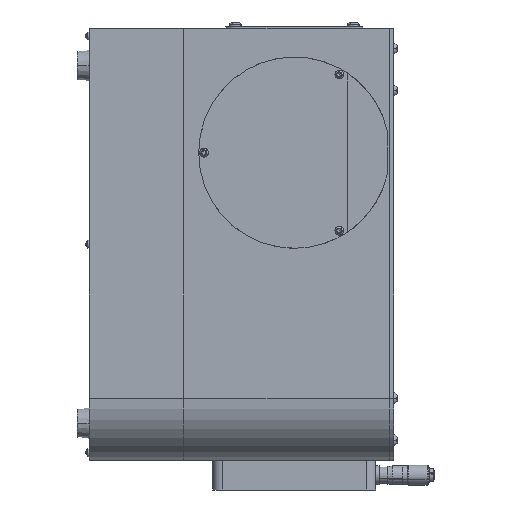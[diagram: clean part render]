
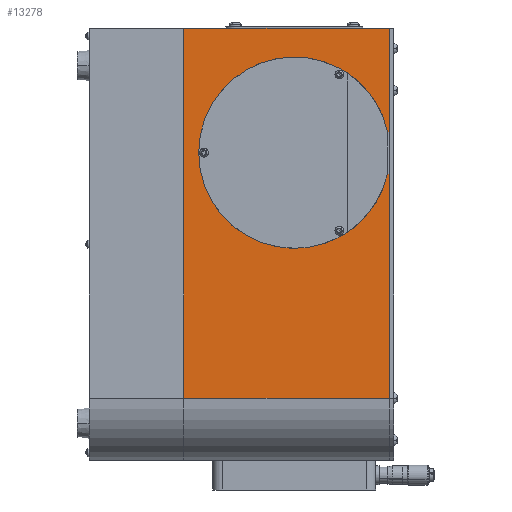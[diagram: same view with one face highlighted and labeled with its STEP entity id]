
A CAD part, left-side view. The second image highlights one B-rep face of the part: STEP entity #13278.
In plain terms, the highlighted planar face has unit normal (-1, 0, 0).
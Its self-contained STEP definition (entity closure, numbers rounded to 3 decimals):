
#216 = LINE ( 'NONE', #18851, #20442 ) ;
#286 = DIRECTION ( 'NONE',  ( 0., -1., 0. ) ) ;
#774 = DIRECTION ( 'NONE',  ( 0., -1., 0. ) ) ;
#827 = LINE ( 'NONE', #7123, #14848 ) ;
#995 = LINE ( 'NONE', #3783, #17003 ) ;
#1275 = ORIENTED_EDGE ( 'NONE', *, *, #3268, .F. ) ;
#1336 = ORIENTED_EDGE ( 'NONE', *, *, #15198, .T. ) ;
#2396 = CARTESIAN_POINT ( 'NONE',  ( -191.054, -157.513, 45.5 ) ) ;
#3268 = EDGE_CURVE ( 'NONE', #9895, #10801, #25383, .T. ) ;
#3727 = DIRECTION ( 'NONE',  ( 0., 0., 1. ) ) ;
#3764 = CARTESIAN_POINT ( 'NONE',  ( -191.054, -157.513, -99. ) ) ;
#3783 = CARTESIAN_POINT ( 'NONE',  ( -191.054, -157.513, 72.5 ) ) ;
#3837 = ORIENTED_EDGE ( 'NONE', *, *, #15326, .T. ) ;
#3856 = ORIENTED_EDGE ( 'NONE', *, *, #25794, .F. ) ;
#4238 = CARTESIAN_POINT ( 'NONE',  ( -191.054, -25.513, -99. ) ) ;
#4264 = VERTEX_POINT ( 'NONE', #2396 ) ;
#4361 = ORIENTED_EDGE ( 'NONE', *, *, #20903, .F. ) ;
#5051 = CIRCLE ( 'NONE', #10160, 61.5 ) ;
#5195 = CARTESIAN_POINT ( 'NONE',  ( -191.054, -96.513, 59. ) ) ;
#5585 = VERTEX_POINT ( 'NONE', #3764 ) ;
#5792 = CARTESIAN_POINT ( 'NONE',  ( -191.054, -25.513, 139. ) ) ;
#5842 = CARTESIAN_POINT ( 'NONE',  ( -191.054, -25.513, 139. ) ) ;
#6900 = ORIENTED_EDGE ( 'NONE', *, *, #26506, .F. ) ;
#7123 = CARTESIAN_POINT ( 'NONE',  ( -191.054, -157.513, 45.5 ) ) ;
#7998 = VERTEX_POINT ( 'NONE', #10989 ) ;
#8390 = CARTESIAN_POINT ( 'NONE',  ( -191.054, -157.513, 72.5 ) ) ;
#9895 = VERTEX_POINT ( 'NONE', #20277 ) ;
#10160 = AXIS2_PLACEMENT_3D ( 'NONE', #5195, #21997, #15513 ) ;
#10801 = VERTEX_POINT ( 'NONE', #8390 ) ;
#10975 = CARTESIAN_POINT ( 'NONE',  ( -191.054, -157.513, -99. ) ) ;
#10989 = CARTESIAN_POINT ( 'NONE',  ( -191.054, -156.513, 45.5 ) ) ;
#12027 = DIRECTION ( 'NONE',  ( 1., 0., 0. ) ) ;
#12124 = CARTESIAN_POINT ( 'NONE',  ( -191.054, -157.513, 139. ) ) ;
#12632 = VERTEX_POINT ( 'NONE', #26806 ) ;
#12880 = DIRECTION ( 'NONE',  ( 0., 0., -1. ) ) ;
#13107 = VECTOR ( 'NONE', #25529, 1000. ) ;
#13184 = EDGE_LOOP ( 'NONE', ( #4361, #6900, #1275, #3837, #1336, #15127, #3856, #18571 ) ) ;
#13278 = ADVANCED_FACE ( 'NONE', ( #16581 ), #16320, .F. ) ;
#13896 = LINE ( 'NONE', #5792, #23688 ) ;
#14419 = LINE ( 'NONE', #18955, #13107 ) ;
#14848 = VECTOR ( 'NONE', #286, 1000. ) ;
#15127 = ORIENTED_EDGE ( 'NONE', *, *, #23415, .T. ) ;
#15198 = EDGE_CURVE ( 'NONE', #25350, #20956, #13896, .T. ) ;
#15326 = EDGE_CURVE ( 'NONE', #9895, #25350, #216, .T. ) ;
#15513 = DIRECTION ( 'NONE',  ( 0., 0., -1. ) ) ;
#16320 = PLANE ( 'NONE',  #23010 ) ;
#16581 = FACE_OUTER_BOUND ( 'NONE', #13184, .T. ) ;
#17003 = VECTOR ( 'NONE', #20413, 1000. ) ;
#18571 = ORIENTED_EDGE ( 'NONE', *, *, #20949, .F. ) ;
#18851 = CARTESIAN_POINT ( 'NONE',  ( -191.054, -157.513, 139. ) ) ;
#18955 = CARTESIAN_POINT ( 'NONE',  ( -191.054, -157.513, 139. ) ) ;
#19319 = VECTOR ( 'NONE', #774, 1000. ) ;
#19809 = VECTOR ( 'NONE', #12880, 1000. ) ;
#19950 = LINE ( 'NONE', #10975, #19319 ) ;
#20277 = CARTESIAN_POINT ( 'NONE',  ( -191.054, -157.513, 139. ) ) ;
#20413 = DIRECTION ( 'NONE',  ( 0., 1., 0. ) ) ;
#20442 = VECTOR ( 'NONE', #20666, 1000. ) ;
#20492 = DIRECTION ( 'NONE',  ( 0., 0., -1. ) ) ;
#20666 = DIRECTION ( 'NONE',  ( 0., 1., 0. ) ) ;
#20903 = EDGE_CURVE ( 'NONE', #12632, #7998, #5051, .T. ) ;
#20949 = EDGE_CURVE ( 'NONE', #7998, #4264, #827, .T. ) ;
#20956 = VERTEX_POINT ( 'NONE', #4238 ) ;
#21997 = DIRECTION ( 'NONE',  ( -1., 0., 0. ) ) ;
#23010 = AXIS2_PLACEMENT_3D ( 'NONE', #12124, #12027, #3727 ) ;
#23415 = EDGE_CURVE ( 'NONE', #20956, #5585, #19950, .T. ) ;
#23570 = CARTESIAN_POINT ( 'NONE',  ( -191.054, -157.513, 139. ) ) ;
#23688 = VECTOR ( 'NONE', #20492, 1000. ) ;
#25350 = VERTEX_POINT ( 'NONE', #5842 ) ;
#25383 = LINE ( 'NONE', #23570, #19809 ) ;
#25529 = DIRECTION ( 'NONE',  ( 0., 0., -1. ) ) ;
#25794 = EDGE_CURVE ( 'NONE', #4264, #5585, #14419, .T. ) ;
#26506 = EDGE_CURVE ( 'NONE', #10801, #12632, #995, .T. ) ;
#26806 = CARTESIAN_POINT ( 'NONE',  ( -191.054, -156.513, 72.5 ) ) ;
